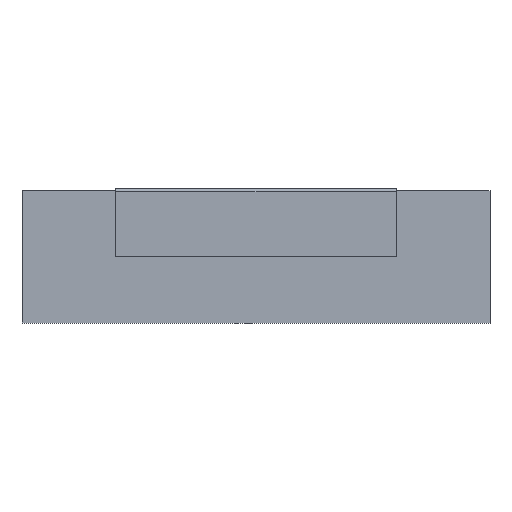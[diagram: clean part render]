
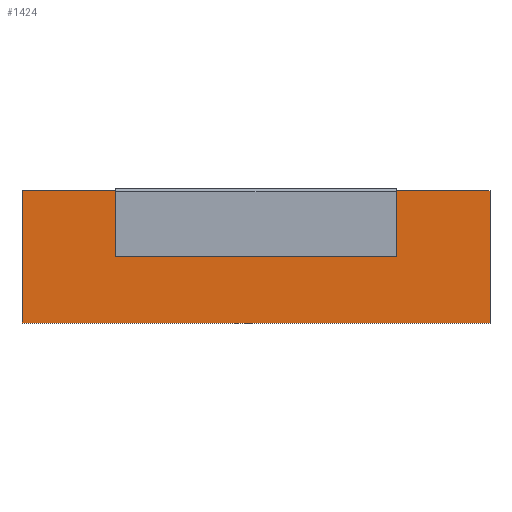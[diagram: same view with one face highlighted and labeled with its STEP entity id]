
A CAD part, top view. The second image highlights one B-rep face of the part: STEP entity #1424.
In plain terms, the highlighted planar face has unit normal (0, 0, 1).
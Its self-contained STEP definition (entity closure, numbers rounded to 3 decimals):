
#254 = ORIENTED_EDGE ( 'NONE', *, *, #565, .T. ) ;
#255 = ORIENTED_EDGE ( 'NONE', *, *, #551, .T. ) ;
#256 = ORIENTED_EDGE ( 'NONE', *, *, #566, .T. ) ;
#257 = ORIENTED_EDGE ( 'NONE', *, *, #500, .F. ) ;
#258 = ORIENTED_EDGE ( 'NONE', *, *, #492, .T. ) ;
#259 = ORIENTED_EDGE ( 'NONE', *, *, #522, .T. ) ;
#260 = ORIENTED_EDGE ( 'NONE', *, *, #499, .F. ) ;
#261 = ORIENTED_EDGE ( 'NONE', *, *, #502, .F. ) ;
#374 = EDGE_LOOP ( 'NONE', ( #254, #255, #256, #257, #258, #259, #260, #261 ) ) ;
#451 = VERTEX_POINT ( 'NONE', #2325 ) ;
#452 = VERTEX_POINT ( 'NONE', #796 ) ;
#492 = EDGE_CURVE ( 'NONE', #785, #782, #2256, .T. ) ;
#499 = EDGE_CURVE ( 'NONE', #786, #783, #1439, .T. ) ;
#500 = EDGE_CURVE ( 'NONE', #785, #784, #2248, .T. ) ;
#502 = EDGE_CURVE ( 'NONE', #2246, #786, #1910, .T. ) ;
#522 = EDGE_CURVE ( 'NONE', #782, #783, #1485, .T. ) ;
#551 = EDGE_CURVE ( 'NONE', #451, #452, #1536, .T. ) ;
#565 = EDGE_CURVE ( 'NONE', #2246, #451, #1571, .T. ) ;
#566 = EDGE_CURVE ( 'NONE', #452, #784, #1573, .T. ) ;
#782 = VERTEX_POINT ( 'NONE', #1280 ) ;
#783 = VERTEX_POINT ( 'NONE', #1294 ) ;
#784 = VERTEX_POINT ( 'NONE', #1295 ) ;
#785 = VERTEX_POINT ( 'NONE', #1296 ) ;
#786 = VERTEX_POINT ( 'NONE', #1297 ) ;
#796 = CARTESIAN_POINT ( 'NONE',  ( 17.25, 12.2, 21.6 ) ) ;
#837 = CARTESIAN_POINT ( 'NONE',  ( 0., 0., 21.6 ) ) ;
#838 = DIRECTION ( 'NONE',  ( 0., -1., 0. ) ) ;
#842 = CARTESIAN_POINT ( 'NONE',  ( 0., 24.3, 21.6 ) ) ;
#846 = CARTESIAN_POINT ( 'NONE',  ( 86., 0., 21.6 ) ) ;
#847 = DIRECTION ( 'NONE',  ( 0., -1., 0. ) ) ;
#848 = CARTESIAN_POINT ( 'NONE',  ( 0., 24.3, 21.6 ) ) ;
#849 = DIRECTION ( 'NONE',  ( 1., 0., 0. ) ) ;
#853 = DIRECTION ( 'NONE',  ( 1., 0., 0. ) ) ;
#892 = CARTESIAN_POINT ( 'NONE',  ( 0., 0., 21.6 ) ) ;
#893 = DIRECTION ( 'NONE',  ( 1., 0., 0. ) ) ;
#946 = CARTESIAN_POINT ( 'NONE',  ( 0., 12.2, 21.6 ) ) ;
#951 = DIRECTION ( 'NONE',  ( -1., 0., 0. ) ) ;
#979 = CARTESIAN_POINT ( 'NONE',  ( 68.75, 0., 21.6 ) ) ;
#980 = DIRECTION ( 'NONE',  ( 0., -1., 0. ) ) ;
#981 = CARTESIAN_POINT ( 'NONE',  ( 17.25, 0., 21.6 ) ) ;
#982 = DIRECTION ( 'NONE',  ( 0., 1., 0. ) ) ;
#1280 = CARTESIAN_POINT ( 'NONE',  ( 0., 0., 21.6 ) ) ;
#1294 = CARTESIAN_POINT ( 'NONE',  ( 86., 0., 21.6 ) ) ;
#1295 = CARTESIAN_POINT ( 'NONE',  ( 17.25, 24.3, 21.6 ) ) ;
#1296 = CARTESIAN_POINT ( 'NONE',  ( 0., 24.3, 21.6 ) ) ;
#1297 = CARTESIAN_POINT ( 'NONE',  ( 86., 24.3, 21.6 ) ) ;
#1424 = ADVANCED_FACE ( 'NONE', ( #1862 ), #2015, .T. ) ;
#1439 = LINE ( 'NONE', #846, #1440 ) ;
#1440 = VECTOR ( 'NONE', #847, 1000. ) ;
#1441 = VECTOR ( 'NONE', #849, 1000. ) ;
#1445 = VECTOR ( 'NONE', #853, 1000. ) ;
#1485 = LINE ( 'NONE', #892, #1486 ) ;
#1486 = VECTOR ( 'NONE', #893, 1000. ) ;
#1536 = LINE ( 'NONE', #946, #1543 ) ;
#1543 = VECTOR ( 'NONE', #951, 1000. ) ;
#1571 = LINE ( 'NONE', #979, #1572 ) ;
#1572 = VECTOR ( 'NONE', #980, 1000. ) ;
#1573 = LINE ( 'NONE', #981, #1574 ) ;
#1574 = VECTOR ( 'NONE', #982, 1000. ) ;
#1862 = FACE_OUTER_BOUND ( 'NONE', #374, .T. ) ;
#1910 = LINE ( 'NONE', #848, #1445 ) ;
#2015 = PLANE ( 'NONE',  #2211 ) ;
#2018 = CARTESIAN_POINT ( 'NONE',  ( 0., 0., 21.6 ) ) ;
#2031 = DIRECTION ( 'NONE',  ( 0., 0., 1. ) ) ;
#2032 = DIRECTION ( 'NONE',  ( 1., 0., 0. ) ) ;
#2116 = CARTESIAN_POINT ( 'NONE',  ( 68.75, 24.3, 21.6 ) ) ;
#2211 = AXIS2_PLACEMENT_3D ( 'NONE', #2018, #2031, #2032 ) ;
#2246 = VERTEX_POINT ( 'NONE', #2116 ) ;
#2248 = LINE ( 'NONE', #842, #1441 ) ;
#2256 = LINE ( 'NONE', #837, #2257 ) ;
#2257 = VECTOR ( 'NONE', #838, 1000. ) ;
#2325 = CARTESIAN_POINT ( 'NONE',  ( 68.75, 12.2, 21.6 ) ) ;
